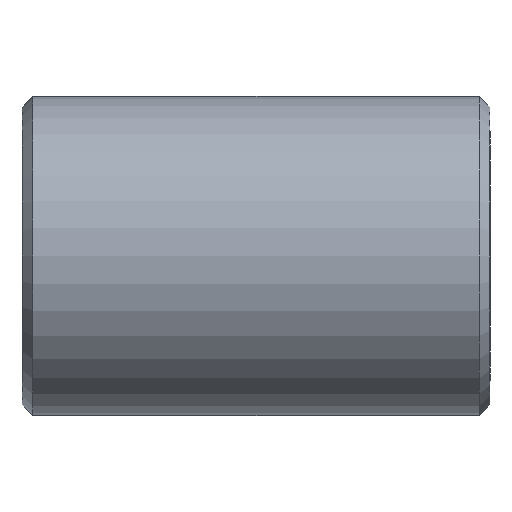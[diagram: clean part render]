
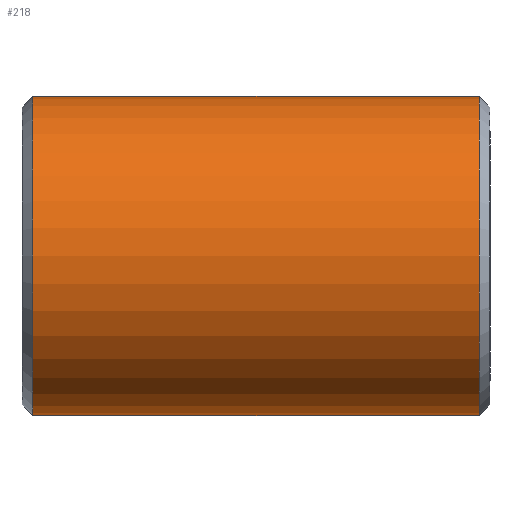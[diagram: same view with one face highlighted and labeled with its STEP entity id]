
A CAD part, left-side view. The second image highlights one B-rep face of the part: STEP entity #218.
In plain terms, the highlighted cylindrical face has radius 7.5 mm (diameter 15 mm), a partial arc.
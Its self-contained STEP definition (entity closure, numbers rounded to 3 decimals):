
#29 = VERTEX_POINT ( 'NONE', #1071 ) ;
#72 = DIRECTION ( 'NONE',  ( 0., 1., 0. ) ) ;
#84 = AXIS2_PLACEMENT_3D ( 'NONE', #447, #1189, #882 ) ;
#127 = AXIS2_PLACEMENT_3D ( 'NONE', #827, #72, #514 ) ;
#181 = DIRECTION ( 'NONE',  ( 0., 1., 0. ) ) ;
#194 = CARTESIAN_POINT ( 'NONE',  ( 0., 65.513, -7.5 ) ) ;
#218 = ADVANCED_FACE ( 'NONE', ( #224 ), #582, .T. ) ;
#224 = FACE_OUTER_BOUND ( 'NONE', #801, .T. ) ;
#245 = ORIENTED_EDGE ( 'NONE', *, *, #627, .T. ) ;
#250 = DIRECTION ( 'NONE',  ( 0., 0., 1. ) ) ;
#320 = ORIENTED_EDGE ( 'NONE', *, *, #946, .T. ) ;
#347 = VERTEX_POINT ( 'NONE', #991 ) ;
#361 = LINE ( 'NONE', #194, #836 ) ;
#430 = LINE ( 'NONE', #962, #1250 ) ;
#447 = CARTESIAN_POINT ( 'NONE',  ( 0., 1., 0. ) ) ;
#477 = CARTESIAN_POINT ( 'NONE',  ( 0., 1., -7.5 ) ) ;
#497 = CIRCLE ( 'NONE', #84, 7.5 ) ;
#514 = DIRECTION ( 'NONE',  ( 0., 0., -1. ) ) ;
#516 = ORIENTED_EDGE ( 'NONE', *, *, #634, .F. ) ;
#582 = CYLINDRICAL_SURFACE ( 'NONE', #1106, 7.5 ) ;
#617 = CARTESIAN_POINT ( 'NONE',  ( 0., 1., 7.5 ) ) ;
#627 = EDGE_CURVE ( 'NONE', #29, #347, #1019, .T. ) ;
#634 = EDGE_CURVE ( 'NONE', #29, #1097, #361, .T. ) ;
#801 = EDGE_LOOP ( 'NONE', ( #516, #245, #320, #1328 ) ) ;
#827 = CARTESIAN_POINT ( 'NONE',  ( 0., -20., 0. ) ) ;
#836 = VECTOR ( 'NONE', #181, 1000. ) ;
#882 = DIRECTION ( 'NONE',  ( 0., 0., 1. ) ) ;
#884 = DIRECTION ( 'NONE',  ( 0., 1., 0. ) ) ;
#946 = EDGE_CURVE ( 'NONE', #347, #1202, #430, .T. ) ;
#962 = CARTESIAN_POINT ( 'NONE',  ( 0., 65.513, 7.5 ) ) ;
#989 = EDGE_CURVE ( 'NONE', #1202, #1097, #497, .T. ) ;
#991 = CARTESIAN_POINT ( 'NONE',  ( 0., -20., 7.5 ) ) ;
#1019 = CIRCLE ( 'NONE', #127, 7.5 ) ;
#1055 = DIRECTION ( 'NONE',  ( 0., 1., 0. ) ) ;
#1071 = CARTESIAN_POINT ( 'NONE',  ( 0., -20., -7.5 ) ) ;
#1097 = VERTEX_POINT ( 'NONE', #477 ) ;
#1106 = AXIS2_PLACEMENT_3D ( 'NONE', #1198, #884, #250 ) ;
#1189 = DIRECTION ( 'NONE',  ( 0., -1., 0. ) ) ;
#1198 = CARTESIAN_POINT ( 'NONE',  ( 0., 65.513, 0. ) ) ;
#1202 = VERTEX_POINT ( 'NONE', #617 ) ;
#1250 = VECTOR ( 'NONE', #1055, 1000. ) ;
#1328 = ORIENTED_EDGE ( 'NONE', *, *, #989, .T. ) ;
